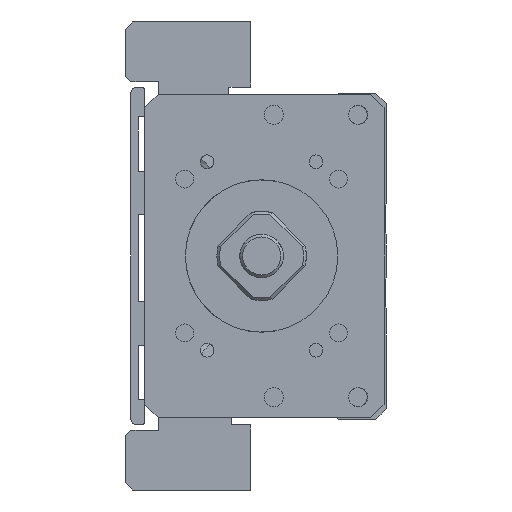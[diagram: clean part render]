
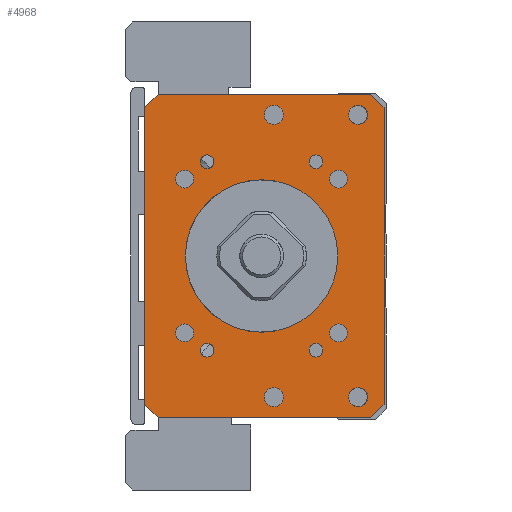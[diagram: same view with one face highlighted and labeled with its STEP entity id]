
A CAD part, left-side view. The second image highlights one B-rep face of the part: STEP entity #4968.
In plain terms, the highlighted planar face has unit normal (-1, 0, 0).
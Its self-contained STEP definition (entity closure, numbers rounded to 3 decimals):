
#4968=ADVANCED_FACE('',(#7748,#7749,#7750,#7751,#7752,#7753,#7754,#7755,
#7756,#7757,#7758,#7759,#7760,#7761),#5538,.F.);
#5538=PLANE('',#15328);
#6263=LINE('',#20898,#7206);
#6265=LINE('',#20922,#7208);
#6266=LINE('',#20924,#7209);
#6267=LINE('',#20926,#7210);
#6268=LINE('',#20928,#7211);
#6269=LINE('',#20930,#7212);
#6270=LINE('',#20932,#7213);
#6271=LINE('',#20934,#7214);
#7206=VECTOR('',#17422,1.);
#7208=VECTOR('',#17446,1.);
#7209=VECTOR('',#17447,1.);
#7210=VECTOR('',#17448,1.);
#7211=VECTOR('',#17449,1.);
#7212=VECTOR('',#17450,1.);
#7213=VECTOR('',#17451,1.);
#7214=VECTOR('',#17452,1.);
#7748=FACE_BOUND('',#8454,.T.);
#7749=FACE_BOUND('',#8455,.T.);
#7750=FACE_BOUND('',#8456,.T.);
#7751=FACE_BOUND('',#8457,.T.);
#7752=FACE_BOUND('',#8458,.T.);
#7753=FACE_BOUND('',#8459,.T.);
#7754=FACE_BOUND('',#8460,.T.);
#7755=FACE_BOUND('',#8461,.T.);
#7756=FACE_BOUND('',#8462,.T.);
#7757=FACE_BOUND('',#8463,.T.);
#7758=FACE_BOUND('',#8464,.T.);
#7759=FACE_BOUND('',#8465,.T.);
#7760=FACE_BOUND('',#8466,.T.);
#7761=FACE_BOUND('',#8467,.T.);
#8454=EDGE_LOOP('',(#10440));
#8455=EDGE_LOOP('',(#10441));
#8456=EDGE_LOOP('',(#10442));
#8457=EDGE_LOOP('',(#10443));
#8458=EDGE_LOOP('',(#10444));
#8459=EDGE_LOOP('',(#10445));
#8460=EDGE_LOOP('',(#10446));
#8461=EDGE_LOOP('',(#10447));
#8462=EDGE_LOOP('',(#10448));
#8463=EDGE_LOOP('',(#10449,#10450,#10451,#10452,#10453,#10454,#10455,#10456));
#8464=EDGE_LOOP('',(#10457));
#8465=EDGE_LOOP('',(#10458));
#8466=EDGE_LOOP('',(#10459));
#8467=EDGE_LOOP('',(#10460));
#10440=ORIENTED_EDGE('',*,*,#13730,.F.);
#10441=ORIENTED_EDGE('',*,*,#13731,.F.);
#10442=ORIENTED_EDGE('',*,*,#13732,.F.);
#10443=ORIENTED_EDGE('',*,*,#13733,.F.);
#10444=ORIENTED_EDGE('',*,*,#13734,.F.);
#10445=ORIENTED_EDGE('',*,*,#13735,.T.);
#10446=ORIENTED_EDGE('',*,*,#13736,.F.);
#10447=ORIENTED_EDGE('',*,*,#13737,.F.);
#10448=ORIENTED_EDGE('',*,*,#13738,.F.);
#10449=ORIENTED_EDGE('',*,*,#13727,.T.);
#10450=ORIENTED_EDGE('',*,*,#13739,.T.);
#10451=ORIENTED_EDGE('',*,*,#13740,.F.);
#10452=ORIENTED_EDGE('',*,*,#13741,.T.);
#10453=ORIENTED_EDGE('',*,*,#13742,.F.);
#10454=ORIENTED_EDGE('',*,*,#13743,.T.);
#10455=ORIENTED_EDGE('',*,*,#13744,.T.);
#10456=ORIENTED_EDGE('',*,*,#13745,.T.);
#10457=ORIENTED_EDGE('',*,*,#13746,.F.);
#10458=ORIENTED_EDGE('',*,*,#13747,.F.);
#10459=ORIENTED_EDGE('',*,*,#13748,.F.);
#10460=ORIENTED_EDGE('',*,*,#13707,.F.);
#12432=VERTEX_POINT('',#20837);
#12452=VERTEX_POINT('',#20897);
#12453=VERTEX_POINT('',#20899);
#12455=VERTEX_POINT('',#20905);
#12456=VERTEX_POINT('',#20907);
#12457=VERTEX_POINT('',#20909);
#12458=VERTEX_POINT('',#20911);
#12459=VERTEX_POINT('',#20913);
#12460=VERTEX_POINT('',#20915);
#12461=VERTEX_POINT('',#20917);
#12462=VERTEX_POINT('',#20919);
#12463=VERTEX_POINT('',#20921);
#12464=VERTEX_POINT('',#20923);
#12465=VERTEX_POINT('',#20925);
#12466=VERTEX_POINT('',#20927);
#12467=VERTEX_POINT('',#20929);
#12468=VERTEX_POINT('',#20931);
#12469=VERTEX_POINT('',#20933);
#12470=VERTEX_POINT('',#20936);
#12471=VERTEX_POINT('',#20938);
#12472=VERTEX_POINT('',#20940);
#13707=EDGE_CURVE('',#12432,#12432,#14589,.T.);
#13727=EDGE_CURVE('',#12453,#12452,#6263,.T.);
#13730=EDGE_CURVE('',#12455,#12455,#14598,.T.);
#13731=EDGE_CURVE('',#12456,#12456,#14599,.T.);
#13732=EDGE_CURVE('',#12457,#12457,#14600,.T.);
#13733=EDGE_CURVE('',#12458,#12458,#14601,.T.);
#13734=EDGE_CURVE('',#12459,#12459,#14602,.T.);
#13735=EDGE_CURVE('',#12460,#12460,#14603,.T.);
#13736=EDGE_CURVE('',#12461,#12461,#14604,.T.);
#13737=EDGE_CURVE('',#12462,#12462,#14605,.T.);
#13738=EDGE_CURVE('',#12463,#12463,#14606,.T.);
#13739=EDGE_CURVE('',#12452,#12464,#6265,.T.);
#13740=EDGE_CURVE('',#12465,#12464,#6266,.T.);
#13741=EDGE_CURVE('',#12465,#12466,#6267,.T.);
#13742=EDGE_CURVE('',#12467,#12466,#6268,.T.);
#13743=EDGE_CURVE('',#12467,#12468,#6269,.T.);
#13744=EDGE_CURVE('',#12468,#12469,#6270,.T.);
#13745=EDGE_CURVE('',#12469,#12453,#6271,.T.);
#13746=EDGE_CURVE('',#12470,#12470,#14607,.T.);
#13747=EDGE_CURVE('',#12471,#12471,#14608,.T.);
#13748=EDGE_CURVE('',#12472,#12472,#14609,.T.);
#14589=CIRCLE('',#15305,14.);
#14598=CIRCLE('',#15316,1.65);
#14599=CIRCLE('',#15317,1.65);
#14600=CIRCLE('',#15318,1.65);
#14601=CIRCLE('',#15319,1.65);
#14602=CIRCLE('',#15320,1.25);
#14603=CIRCLE('',#15321,1.75);
#14604=CIRCLE('',#15322,1.25);
#14605=CIRCLE('',#15323,1.75);
#14606=CIRCLE('',#15324,1.25);
#14607=CIRCLE('',#15325,1.75);
#14608=CIRCLE('',#15326,1.75);
#14609=CIRCLE('',#15327,1.25);
#15305=AXIS2_PLACEMENT_3D('',#20836,#17396,#17397);
#15316=AXIS2_PLACEMENT_3D('',#20904,#17428,#17429);
#15317=AXIS2_PLACEMENT_3D('',#20906,#17430,#17431);
#15318=AXIS2_PLACEMENT_3D('',#20908,#17432,#17433);
#15319=AXIS2_PLACEMENT_3D('',#20910,#17434,#17435);
#15320=AXIS2_PLACEMENT_3D('',#20912,#17436,#17437);
#15321=AXIS2_PLACEMENT_3D('',#20914,#17438,#17439);
#15322=AXIS2_PLACEMENT_3D('',#20916,#17440,#17441);
#15323=AXIS2_PLACEMENT_3D('',#20918,#17442,#17443);
#15324=AXIS2_PLACEMENT_3D('',#20920,#17444,#17445);
#15325=AXIS2_PLACEMENT_3D('',#20935,#17453,#17454);
#15326=AXIS2_PLACEMENT_3D('',#20937,#17455,#17456);
#15327=AXIS2_PLACEMENT_3D('',#20939,#17457,#17458);
#15328=AXIS2_PLACEMENT_3D('',#20941,#17459,#17460);
#17396=DIRECTION('',(-1.,0.,0.));
#17397=DIRECTION('',(0.,1.,0.));
#17422=DIRECTION('',(0.,0.,-1.));
#17428=DIRECTION('',(-1.,0.,0.));
#17429=DIRECTION('',(0.,0.,1.));
#17430=DIRECTION('',(-1.,0.,0.));
#17431=DIRECTION('',(0.,0.,1.));
#17432=DIRECTION('',(-1.,0.,0.));
#17433=DIRECTION('',(0.,0.,1.));
#17434=DIRECTION('',(-1.,0.,0.));
#17435=DIRECTION('',(0.,0.,1.));
#17436=DIRECTION('',(-1.,0.,0.));
#17437=DIRECTION('',(0.,1.,0.));
#17438=DIRECTION('',(1.,0.,0.));
#17439=DIRECTION('',(0.,0.,1.));
#17440=DIRECTION('',(-1.,0.,0.));
#17441=DIRECTION('',(0.,1.,0.));
#17442=DIRECTION('',(-1.,0.,0.));
#17443=DIRECTION('',(0.,0.,1.));
#17444=DIRECTION('',(-1.,0.,0.));
#17445=DIRECTION('',(0.,1.,0.));
#17446=DIRECTION('',(0.,-0.707,-0.707));
#17447=DIRECTION('',(0.,1.,0.));
#17448=DIRECTION('',(0.,-0.707,0.707));
#17449=DIRECTION('',(0.,0.,-1.));
#17450=DIRECTION('',(0.,0.707,0.707));
#17451=DIRECTION('',(0.,1.,0.));
#17452=DIRECTION('',(0.,0.707,-0.707));
#17453=DIRECTION('',(-1.,0.,0.));
#17454=DIRECTION('',(0.,0.,1.));
#17455=DIRECTION('',(-1.,0.,0.));
#17456=DIRECTION('',(0.,0.,1.));
#17457=DIRECTION('',(-1.,0.,0.));
#17458=DIRECTION('',(0.,1.,0.));
#17459=DIRECTION('',(1.,0.,0.));
#17460=DIRECTION('',(0.,1.,0.));
#20836=CARTESIAN_POINT('',(-211.,0.,-500.));
#20837=CARTESIAN_POINT('',(-211.,14.,-500.));
#20897=CARTESIAN_POINT('',(-211.,21.499,-527.25));
#20898=CARTESIAN_POINT('',(-211.,21.499,-470.25));
#20899=CARTESIAN_POINT('',(-211.,21.499,-472.75));
#20904=CARTESIAN_POINT('',(-211.,14.142,-485.858));
#20905=CARTESIAN_POINT('',(-211.,14.142,-484.208));
#20906=CARTESIAN_POINT('',(-211.,-14.142,-485.858));
#20907=CARTESIAN_POINT('',(-211.,-14.142,-484.208));
#20908=CARTESIAN_POINT('',(-211.,14.142,-514.142));
#20909=CARTESIAN_POINT('',(-211.,14.142,-512.492));
#20910=CARTESIAN_POINT('',(-211.,-14.142,-514.142));
#20911=CARTESIAN_POINT('',(-211.,-14.142,-512.492));
#20912=CARTESIAN_POINT('',(-211.,-10.,-517.321));
#20913=CARTESIAN_POINT('',(-211.,-8.75,-517.321));
#20914=CARTESIAN_POINT('',(-211.,-2.25,-525.936));
#20915=CARTESIAN_POINT('',(-211.,-2.25,-524.186));
#20916=CARTESIAN_POINT('',(-211.,10.,-482.679));
#20917=CARTESIAN_POINT('',(-211.,11.25,-482.679));
#20918=CARTESIAN_POINT('',(-211.,-2.25,-474.064));
#20919=CARTESIAN_POINT('',(-211.,-2.25,-472.314));
#20920=CARTESIAN_POINT('',(-211.,10.,-517.321));
#20921=CARTESIAN_POINT('',(-211.,11.25,-517.321));
#20922=CARTESIAN_POINT('',(-211.,18.999,-529.75));
#20923=CARTESIAN_POINT('',(-211.,18.999,-529.75));
#20924=CARTESIAN_POINT('',(-211.,-22.501,-529.75));
#20925=CARTESIAN_POINT('',(-211.,-20.001,-529.75));
#20926=CARTESIAN_POINT('',(-211.,-22.501,-527.25));
#20927=CARTESIAN_POINT('',(-211.,-22.501,-527.25));
#20928=CARTESIAN_POINT('',(-211.,-22.501,-470.25));
#20929=CARTESIAN_POINT('',(-211.,-22.501,-472.75));
#20930=CARTESIAN_POINT('',(-211.,-22.501,-472.75));
#20931=CARTESIAN_POINT('',(-211.,-20.001,-470.25));
#20932=CARTESIAN_POINT('',(-211.,-22.501,-470.25));
#20933=CARTESIAN_POINT('',(-211.,18.999,-470.25));
#20934=CARTESIAN_POINT('',(-211.,18.999,-470.25));
#20935=CARTESIAN_POINT('',(-211.,-17.75,-474.064));
#20936=CARTESIAN_POINT('',(-211.,-17.75,-472.314));
#20937=CARTESIAN_POINT('',(-211.,-17.75,-525.936));
#20938=CARTESIAN_POINT('',(-211.,-17.75,-524.186));
#20939=CARTESIAN_POINT('',(-211.,-10.,-482.679));
#20940=CARTESIAN_POINT('',(-211.,-8.75,-482.679));
#20941=CARTESIAN_POINT('',(-211.,-22.501,-470.25));
